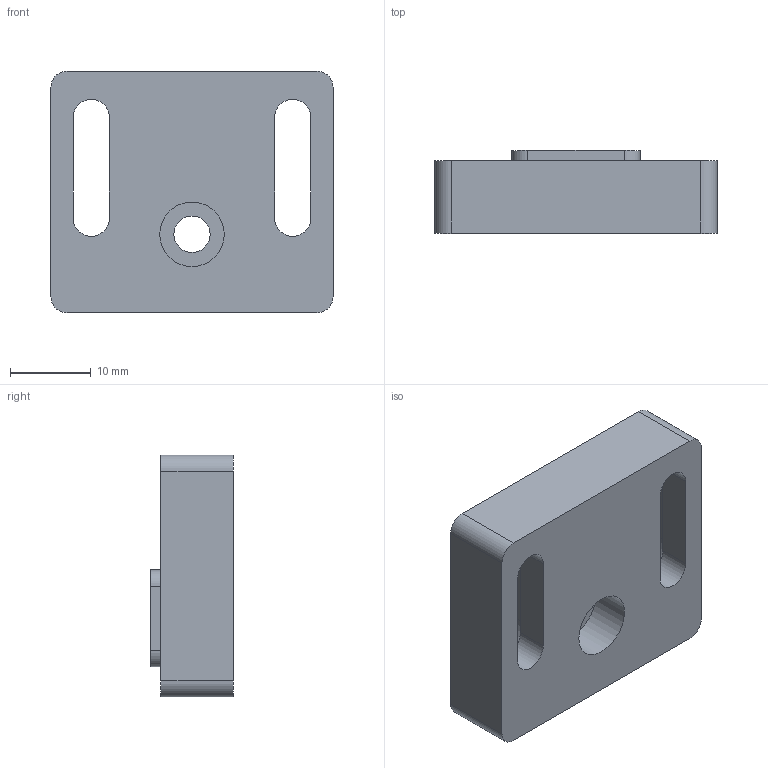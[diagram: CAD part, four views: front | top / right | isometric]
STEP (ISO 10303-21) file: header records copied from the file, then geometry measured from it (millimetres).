
FILE_DESCRIPTION(/* description */ (''),/* implementation_level */ '2;1');
FILE_NAME(/* name */ 'DWP-mount-DHC.stp',/* time_stamp */ '2026-04-13T15:00:19+08:00',/* author */ ('lbx20'),/* organization */ (''),/* preprocessor_version */ 'ST-DEVELOPER v20.1',/* originating_system */ 'Autodesk Inventor 2026',/* authorisation */ '');
FILE_SCHEMA (('AUTOMOTIVE_DESIGN { 1 0 10303 214 3 1 1 }'));
Length unit declared in the file: millimetre
Products named in the file (1): Base-1inch-RSP05_M
Bounding box: 35 x 10.28 x 30 mm (x, y, z)
Volume: 7244.4 mm3; surface area: 3993.5 mm2
Topology: 1 solids, 1 shells, 40 faces, 102 edges, 68 vertices
Faces by surface type: plane 22, cylinder 18
Full cylindrical faces by diameter (mm): 4.5 x1, 8 x1
Entity records: 1277 total; most frequent: DIRECTION 220, CARTESIAN_POINT 211, ORIENTED_EDGE 204, EDGE_CURVE 102, AXIS2_PLACEMENT_3D 77, VERTEX_POINT 68, LINE 66, VECTOR 66
